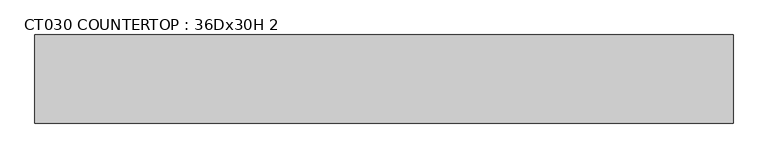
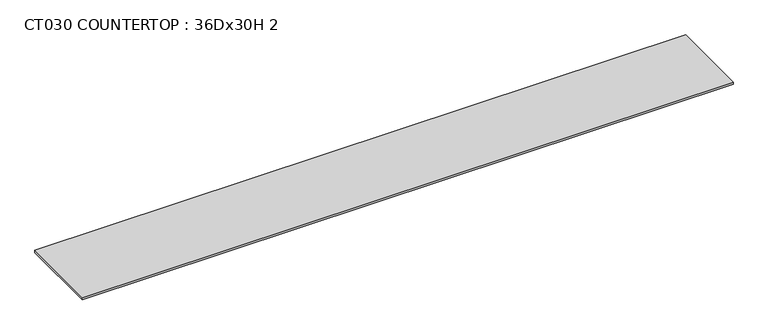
"""IFC4 building model written with IfcOpenShell, lengths in millimetres: furniture geometry, CT030 COUNTERTOP : 36Dx30H 2."""

from ifc_helpers import new_model, si_unit, frame, origin, place, context, project, spatial, polyline, outline, extrude, source, transform, mapped, element, save


def ct030_countertop_36dx30h_2_9893120a(model_context):
    return source(origin(), model_context, "Body", "SweptSolid", [
        extrude(outline(polyline([(6040.1255289, -310.2), (6040.1255289, -1224.6), (-1200.4622951, -1224.6), (-1200.4622951, -310.2), (6040.1255289, -310.2)])), frame((0.0, 0.0, 736.6), z_axis=(0.0, 0.0, 1.0), x_axis=(1.0, 0.0, 0.0)), (0.0, 0.0, 1.0), 25.4),
    ])


if __name__ == "__main__":
    model = new_model("IFC4")
    model_context = context("Model", 3, world=origin())
    ifc_project = project(units=[si_unit("LENGTHUNIT", "METRE", prefix="MILLI")], contexts=[model_context])
    site = spatial("IfcSite", under=ifc_project)
    building = spatial("IfcBuilding", under=site)
    placement = place(None, origin())
    ct030_countertop_36dx30h_2_shape = ct030_countertop_36dx30h_2_9893120a(model_context)
    element("IfcFurniture", 1, ObjectType="CT030 COUNTERTOP : 36Dx30H 2", at=placement, inside=building, context=model_context, shape_type="MappedRepresentation", body=[
        mapped(ct030_countertop_36dx30h_2_shape, transform((0.0, 0.0, 0.0), x_axis=(1.0, 0.0, 0.0), y_axis=(0.0, 1.0, 0.0), z_axis=(0.0, 0.0, 1.0))),
    ])
    save(model, "model.ifc")
